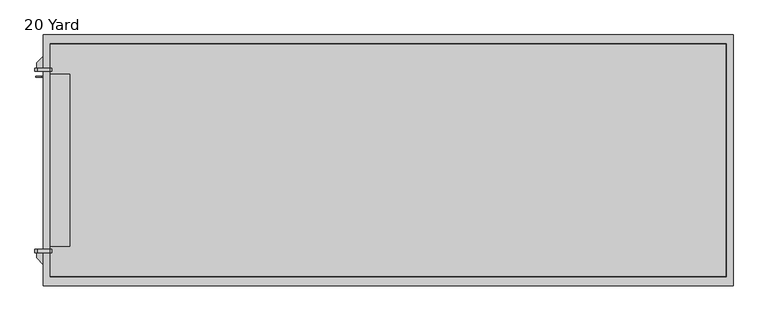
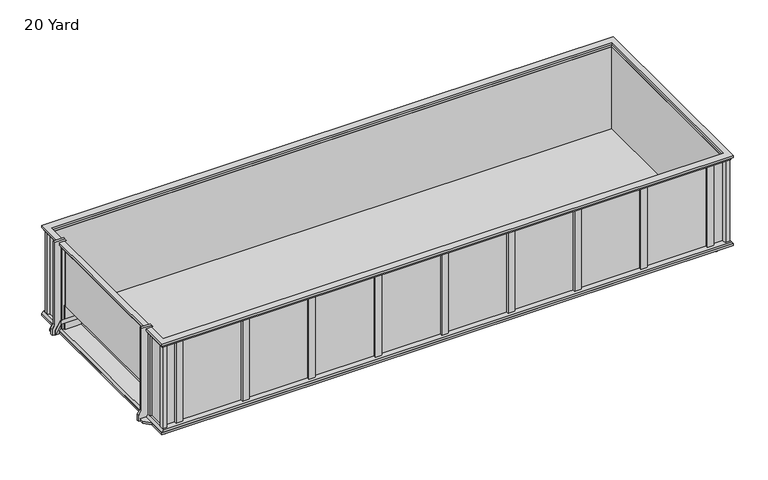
"""IFC4 building model written with IfcOpenShell, lengths in millimetres: geographic element geometry, Benne à ordures : 20 Yard."""

from ifc_helpers import new_model, si_unit, point, frame, frame_2d, origin, place, context, project, spatial, polyline, circle_curve, trimmed, segment, composite_curve, outline, extrude, source, transform, mapped, element, save


def geographic_element_20_yard_d3ad5d77(model_context):
    return source(origin(), model_context, "Body", "SweptSolid", [
        extrude(outline(polyline([(243.2435799, -3368.7841473), (293.2435799, -3368.7841473), (185.0, -3429.970536), (135.0, -3429.970536), (243.2435799, -3368.7841473)])), frame((0.0, 808.6212633, 0.0), z_axis=(0.0, 1.0, 0.0), x_axis=(0.0, 0.0, 1.0)), (0.0, 0.0, 1.0), 6.35),
        extrude(outline(polyline([(150.0, -3331.9018244), (125.0, -3354.8509122), (125.0, 3350.7490878), (150.0, 3333.781813), (150.0, -3331.9018244)])), frame((0.0, -1219.2, 0.0), z_axis=(0.0, 1.0, 0.0), x_axis=(0.0, 0.0, 1.0)), (0.0, 0.0, 1.0), 2438.4),
        extrude(outline(polyline([(-3368.7841473, 809.9712633), (-3368.7841473, 814.9712633), (-3174.2584214, 814.9712633), (-3174.2584214, 809.9712633), (-3368.7841473, 809.9712633)])), frame((0.0, 0.0, 243.2435799), z_axis=(0.0, 0.0, 1.0), x_axis=(1.0, 0.0, 0.0)), (0.0, 0.0, 1.0), 50.0),
        extrude(outline(polyline([(-3291.9018244, 836.9240327), (-3100.1860956, 836.9240327), (-3100.1860956, -836.9240327), (-3291.9018244, -836.9240327), (-3291.9018244, 836.9240327)])), frame((0.0, 0.0, 442.4264892), z_axis=(0.0, 0.0, 1.0), x_axis=(1.0, 0.0, 0.0)), (0.0, 0.0, 1.0), 10.0),
        extrude(outline(polyline([(-3291.9018244, 826.9240327), (-3291.9018244, -826.9240327), (-3306.9018244, -826.9240327), (-3306.9018244, 826.9240327), (-3291.9018244, 826.9240327)])), frame((0.0, 0.0, 442.4264892), z_axis=(0.0, 0.0, 1.0), x_axis=(1.0, 0.0, 0.0)), (0.0, 0.0, 1.0), 726.7735108),
        extrude(outline(polyline([(-3108.9024582, 836.9240327), (-3108.9024582, -836.9240327), (-3315.618187, -836.9240327), (-3315.618187, -826.9240327), (-3118.9024582, -826.9240327), (-3118.9024582, 826.9240327), (-3315.618187, 826.9240327), (-3315.618187, 836.9240327), (-3108.9024582, 836.9240327)])), frame((0.0, 0.0, 150.0), z_axis=(0.0, 0.0, 1.0), x_axis=(1.0, 0.0, 0.0)), (0.0, 0.0, 1.0), 292.4264892),
        extrude(outline(polyline([(3335.0654504, 1204.2), (3335.0654504, -1204.2), (-3341.9018244, -1204.2), (-3341.9018244, 1204.2), (3335.0654504, 1204.2)]), holes=[polyline([(3285.0654504, 1134.2), (-3291.9018244, 1134.2), (-3291.9018244, -1134.2), (3285.0654504, -1134.2), (3285.0654504, 1134.2)])]), frame((0.0, 0.0, 1169.2), z_axis=(0.0, 0.0, 1.0), x_axis=(1.0, 0.0, 0.0)), (0.0, 0.0, 1.0), 25.0),
        extrude(outline(composite_curve([segment(trimmed(circle_curve(frame_2d((50.0, 3223.3084243)), 50.0), [point((50.0, 3173.3084243))], [point((50.0, 3273.3084243))], False, "CARTESIAN"), True, "CONTINUOUS"), segment(trimmed(circle_curve(frame_2d((50.0, 3223.3084243)), 50.0), [point((50.0, 3273.3084243))], [point((50.0, 3173.3084243))], False, "CARTESIAN"), True, "CONTINUOUS")], self_intersect=False)), frame((0.0, -1076.86503, 0.0), z_axis=(0.0, 1.0, 0.0), x_axis=(0.0, 0.0, 1.0)), (0.0, 0.0, 1.0), 218.2801419),
        extrude(outline(composite_curve([segment(trimmed(circle_curve(frame_2d((50.0, 3223.3084243)), 50.0), [point((50.0, 3173.3084243))], [point((50.0, 3273.3084243))], False, "CARTESIAN"), True, "CONTINUOUS"), segment(trimmed(circle_curve(frame_2d((50.0, 3223.3084243)), 50.0), [point((50.0, 3273.3084243))], [point((50.0, 3173.3084243))], False, "CARTESIAN"), True, "CONTINUOUS")], self_intersect=False), holes=[composite_curve([segment(trimmed(circle_curve(frame_2d((50.0, 3223.3084243)), 45.0), [point((50.0, 3178.3084243))], [point((50.0, 3268.3084243))], True, "CARTESIAN"), True, "CONTINUOUS"), segment(trimmed(circle_curve(frame_2d((50.0, 3223.3084243)), 45.0), [point((50.0, 3268.3084243))], [point((50.0, 3178.3084243))], True, "CARTESIAN"), True, "CONTINUOUS")], self_intersect=False)]), frame((0.0, -1098.5848881, 0.0), z_axis=(0.0, 1.0, 0.0), x_axis=(0.0, 0.0, 1.0)), (0.0, 0.0, 1.0), 21.7198581),
        extrude(outline(composite_curve([segment(trimmed(circle_curve(frame_2d((50.0, 3223.3084243)), 50.0), [point((50.0, 3173.3084243))], [point((50.0, 3273.3084243))], False, "CARTESIAN"), True, "CONTINUOUS"), segment(trimmed(circle_curve(frame_2d((50.0, 3223.3084243)), 50.0), [point((50.0, 3273.3084243))], [point((50.0, 3173.3084243))], False, "CARTESIAN"), True, "CONTINUOUS")], self_intersect=False)), frame((0.0, 858.5848881, 0.0), z_axis=(0.0, 1.0, 0.0), x_axis=(0.0, 0.0, 1.0)), (0.0, 0.0, 1.0), 218.2801419),
        extrude(outline(composite_curve([segment(trimmed(circle_curve(frame_2d((50.0, 3223.3084243)), 50.0), [point((50.0, 3173.3084243))], [point((50.0, 3273.3084243))], False, "CARTESIAN"), True, "CONTINUOUS"), segment(trimmed(circle_curve(frame_2d((50.0, 3223.3084243)), 50.0), [point((50.0, 3273.3084243))], [point((50.0, 3173.3084243))], False, "CARTESIAN"), True, "CONTINUOUS")], self_intersect=False), holes=[composite_curve([segment(trimmed(circle_curve(frame_2d((50.0, 3223.3084243)), 45.0), [point((50.0, 3178.3084243))], [point((50.0, 3268.3084243))], True, "CARTESIAN"), True, "CONTINUOUS"), segment(trimmed(circle_curve(frame_2d((50.0, 3223.3084243)), 45.0), [point((50.0, 3268.3084243))], [point((50.0, 3178.3084243))], True, "CARTESIAN"), True, "CONTINUOUS")], self_intersect=False)]), frame((0.0, 1076.86503, 0.0), z_axis=(0.0, 1.0, 0.0), x_axis=(0.0, 0.0, 1.0)), (0.0, 0.0, 1.0), 21.7198581),
        extrude(outline(composite_curve([segment(trimmed(circle_curve(frame_2d((50.0, -3240.6571255)), 50.0), [point((50.0, -3190.6571255))], [point((50.0, -3290.6571255))], False, "CARTESIAN"), True, "CONTINUOUS"), segment(trimmed(circle_curve(frame_2d((50.0, -3240.6571255)), 50.0), [point((50.0, -3290.6571255))], [point((50.0, -3190.6571255))], False, "CARTESIAN"), True, "CONTINUOUS")], self_intersect=False)), frame((0.0, -1076.86503, 0.0), z_axis=(0.0, 1.0, 0.0), x_axis=(0.0, 0.0, 1.0)), (0.0, 0.0, 1.0), 218.2801419),
        extrude(outline(composite_curve([segment(trimmed(circle_curve(frame_2d((50.0, -3240.6571255)), 50.0), [point((50.0, -3190.6571255))], [point((50.0, -3290.6571255))], False, "CARTESIAN"), True, "CONTINUOUS"), segment(trimmed(circle_curve(frame_2d((50.0, -3240.6571255)), 50.0), [point((50.0, -3290.6571255))], [point((50.0, -3190.6571255))], False, "CARTESIAN"), True, "CONTINUOUS")], self_intersect=False), holes=[composite_curve([segment(trimmed(circle_curve(frame_2d((50.0, -3240.6571255)), 45.0), [point((50.0, -3195.6571255))], [point((50.0, -3285.6571255))], True, "CARTESIAN"), True, "CONTINUOUS"), segment(trimmed(circle_curve(frame_2d((50.0, -3240.6571255)), 45.0), [point((50.0, -3285.6571255))], [point((50.0, -3195.6571255))], True, "CARTESIAN"), True, "CONTINUOUS")], self_intersect=False)]), frame((0.0, -1098.5848881, 0.0), z_axis=(0.0, 1.0, 0.0), x_axis=(0.0, 0.0, 1.0)), (0.0, 0.0, 1.0), 21.7198581),
        extrude(outline(composite_curve([segment(trimmed(circle_curve(frame_2d((50.0, -3240.6571255)), 50.0), [point((50.0, -3190.6571255))], [point((50.0, -3290.6571255))], False, "CARTESIAN"), True, "CONTINUOUS"), segment(trimmed(circle_curve(frame_2d((50.0, -3240.6571255)), 50.0), [point((50.0, -3290.6571255))], [point((50.0, -3190.6571255))], False, "CARTESIAN"), True, "CONTINUOUS")], self_intersect=False)), frame((0.0, 858.5848881, 0.0), z_axis=(0.0, 1.0, 0.0), x_axis=(0.0, 0.0, 1.0)), (0.0, 0.0, 1.0), 218.2801419),
        extrude(outline(composite_curve([segment(trimmed(circle_curve(frame_2d((50.0, -3240.6571255)), 50.0), [point((50.0, -3190.6571255))], [point((50.0, -3290.6571255))], False, "CARTESIAN"), True, "CONTINUOUS"), segment(trimmed(circle_curve(frame_2d((50.0, -3240.6571255)), 50.0), [point((50.0, -3290.6571255))], [point((50.0, -3190.6571255))], False, "CARTESIAN"), True, "CONTINUOUS")], self_intersect=False), holes=[composite_curve([segment(trimmed(circle_curve(frame_2d((50.0, -3240.6571255)), 45.0), [point((50.0, -3195.6571255))], [point((50.0, -3285.6571255))], True, "CARTESIAN"), True, "CONTINUOUS"), segment(trimmed(circle_curve(frame_2d((50.0, -3240.6571255)), 45.0), [point((50.0, -3285.6571255))], [point((50.0, -3195.6571255))], True, "CARTESIAN"), True, "CONTINUOUS")], self_intersect=False)]), frame((0.0, 1076.86503, 0.0), z_axis=(0.0, 1.0, 0.0), x_axis=(0.0, 0.0, 1.0)), (0.0, 0.0, 1.0), 21.7198581),
        extrude(outline(polyline([(3325.7490878, 1149.2), (3325.7490878, -1149.2), (-3306.9018244, -1149.2), (-3306.9018244, -826.9240327), (-3291.9018244, -826.9240327), (-3291.9018244, -1134.2), (3285.0654504, -1134.2), (3285.0654504, 1134.2), (-3291.9018244, 1134.2), (-3291.9018244, 826.9240327), (-3306.9018244, 826.9240327), (-3306.9018244, 1149.2), (3325.7490878, 1149.2)])), frame((0.0, 0.0, 150.0), z_axis=(0.0, 0.0, 1.0), x_axis=(1.0, 0.0, 0.0)), (0.0, 0.0, 1.0), 1019.2),
        extrude(outline(polyline([(-3163.568491, 1154.2), (-3163.568491, 1179.2), (-3086.9018244, 1179.2), (-3086.9018244, 1154.2), (-3163.568491, 1154.2)])), frame((0.0, 0.0, 150.0), z_axis=(0.0, 0.0, 1.0), x_axis=(1.0, 0.0, 0.0)), (0.0, 0.0, 1.0), 1019.2),
        extrude(outline(polyline([(-2384.0281113, 1154.2), (-2384.0281113, 1179.2), (-2307.4198039, 1179.2), (-2307.4198039, 1154.2), (-2384.0281113, 1154.2)])), frame((0.0, 0.0, 150.0), z_axis=(0.0, 0.0, 1.0), x_axis=(1.0, 0.0, 0.0)), (0.0, 0.0, 1.0), 1019.2),
        extrude(outline(polyline([(-1604.4877315, 1154.2), (-1604.4877315, 1179.2), (-1527.9377834, 1179.2), (-1527.9377834, 1154.2), (-1604.4877315, 1154.2)])), frame((0.0, 0.0, 150.0), z_axis=(0.0, 0.0, 1.0), x_axis=(1.0, 0.0, 0.0)), (0.0, 0.0, 1.0), 1019.2),
        extrude(outline(polyline([(-824.9473518, 1154.2), (-824.9473518, 1179.2), (-748.455763, 1179.2), (-748.455763, 1154.2), (-824.9473518, 1154.2)])), frame((0.0, 0.0, 150.0), z_axis=(0.0, 0.0, 1.0), x_axis=(1.0, 0.0, 0.0)), (0.0, 0.0, 1.0), 1019.2),
        extrude(outline(polyline([(-45.406972, 1154.2), (-45.406972, 1179.2), (31.0604393, 1179.2), (31.0604393, 1154.2), (-45.406972, 1154.2)])), frame((0.0, 0.0, 150.0), z_axis=(0.0, 0.0, 1.0), x_axis=(1.0, 0.0, 0.0)), (0.0, 0.0, 1.0), 1019.2),
        extrude(outline(polyline([(734.1334077, 1154.2), (734.1334077, 1179.2), (810.5424598, 1179.2), (810.5424598, 1154.2), (734.1334077, 1154.2)])), frame((0.0, 0.0, 150.0), z_axis=(0.0, 0.0, 1.0), x_axis=(1.0, 0.0, 0.0)), (0.0, 0.0, 1.0), 1019.2),
        extrude(outline(polyline([(-3086.9018244, -1179.2), (-3163.568491, -1179.2), (-3163.568491, -1154.2), (-3086.9018244, -1154.2), (-3086.9018244, -1179.2)])), frame((0.0, 0.0, 150.0), z_axis=(0.0, 0.0, 1.0), x_axis=(1.0, 0.0, 0.0)), (0.0, 0.0, 1.0), 1019.2),
        extrude(outline(polyline([(-2384.0281113, -1154.2), (-2307.4198039, -1154.2), (-2307.4198039, -1179.2), (-2384.0281113, -1179.2), (-2384.0281113, -1154.2)])), frame((0.0, 0.0, 150.0), z_axis=(0.0, 0.0, 1.0), x_axis=(1.0, 0.0, 0.0)), (0.0, 0.0, 1.0), 1019.2),
        extrude(outline(polyline([(-1604.4877315, -1154.2), (-1527.9377834, -1154.2), (-1527.9377834, -1179.2), (-1604.4877315, -1179.2), (-1604.4877315, -1154.2)])), frame((0.0, 0.0, 150.0), z_axis=(0.0, 0.0, 1.0), x_axis=(1.0, 0.0, 0.0)), (0.0, 0.0, 1.0), 1019.2),
        extrude(outline(polyline([(-824.9473518, -1154.2), (-748.455763, -1154.2), (-748.455763, -1179.2), (-824.9473518, -1179.2), (-824.9473518, -1154.2)])), frame((0.0, 0.0, 150.0), z_axis=(0.0, 0.0, 1.0), x_axis=(1.0, 0.0, 0.0)), (0.0, 0.0, 1.0), 1019.2),
        extrude(outline(polyline([(-45.406972, -1154.2), (31.0262575, -1154.2), (31.0262575, -1179.2), (-45.406972, -1179.2), (-45.406972, -1154.2)])), frame((0.0, 0.0, 150.0), z_axis=(0.0, 0.0, 1.0), x_axis=(1.0, 0.0, 0.0)), (0.0, 0.0, 1.0), 1019.2),
        extrude(outline(polyline([(734.1334077, -1154.2), (810.5082779, -1154.2), (810.5082779, -1179.2), (734.1334077, -1179.2), (734.1334077, -1154.2)])), frame((0.0, 0.0, 150.0), z_axis=(0.0, 0.0, 1.0), x_axis=(1.0, 0.0, 0.0)), (0.0, 0.0, 1.0), 1019.2),
        extrude(outline(polyline([(1513.6737875, -1154.2), (1589.9902984, -1154.2), (1589.9902984, -1179.2), (1513.6737875, -1179.2), (1513.6737875, -1154.2)])), frame((0.0, 0.0, 150.0), z_axis=(0.0, 0.0, 1.0), x_axis=(1.0, 0.0, 0.0)), (0.0, 0.0, 1.0), 1019.2),
        extrude(outline(polyline([(2293.2141672, -1154.2), (2369.4723189, -1154.2), (2369.4723189, -1179.2), (2293.2141672, -1179.2), (2293.2141672, -1154.2)])), frame((0.0, 0.0, 150.0), z_axis=(0.0, 0.0, 1.0), x_axis=(1.0, 0.0, 0.0)), (0.0, 0.0, 1.0), 1019.2),
        extrude(outline(polyline([(3072.754547, -1154.2), (3148.9543393, -1154.2), (3148.9543393, -1179.2), (3072.754547, -1179.2), (3072.754547, -1154.2)])), frame((0.0, 0.0, 150.0), z_axis=(0.0, 0.0, 1.0), x_axis=(1.0, 0.0, 0.0)), (0.0, 0.0, 1.0), 1019.2),
        extrude(outline(polyline([(3279.0824212, 1194.2), (3325.7490878, 1194.2), (3325.7490878, 1147.5333333), (3285.7490878, 1134.2), (3285.7490878, 1154.2), (3265.7490878, 1154.2), (3279.0824212, 1194.2)])), frame((0.0, 0.0, 150.0), z_axis=(0.0, 0.0, 1.0), x_axis=(1.0, 0.0, 0.0)), (0.0, 0.0, 1.0), 1019.2),
        extrude(outline(polyline([(3279.0824212, -1194.2), (3265.7490878, -1154.2), (3285.7490878, -1154.2), (3285.7490878, -1134.2), (3325.7490878, -1147.5333333), (3325.7490878, -1194.2), (3279.0824212, -1194.2)])), frame((0.0, 0.0, 150.0), z_axis=(0.0, 0.0, 1.0), x_axis=(1.0, 0.0, 0.0)), (0.0, 0.0, 1.0), 1019.2),
        extrude(outline(polyline([(-3285.2351577, 1194.2), (-3271.9018244, 1154.2), (-3291.9018244, 1154.2), (-3291.9018244, 1134.2), (-3331.9018244, 1147.5333333), (-3331.9018244, 1194.2), (-3285.2351577, 1194.2)])), frame((0.0, 0.0, 150.0), z_axis=(0.0, 0.0, 1.0), x_axis=(1.0, 0.0, 0.0)), (0.0, 0.0, 1.0), 1019.2),
        extrude(outline(polyline([(-3285.2351577, -1194.2), (-3331.9018244, -1194.2), (-3331.9018244, -1147.5333333), (-3291.9018244, -1134.2), (-3291.9018244, -1154.2), (-3271.9018244, -1154.2), (-3285.2351577, -1194.2)])), frame((0.0, 0.0, 150.0), z_axis=(0.0, 0.0, 1.0), x_axis=(1.0, 0.0, 0.0)), (0.0, 0.0, 1.0), 1019.2),
        extrude(outline(polyline([(1513.6737875, 1179.2), (1590.0244803, 1179.2), (1590.0244803, 1154.2), (1513.6737875, 1154.2), (1513.6737875, 1179.2)])), frame((0.0, 0.0, 150.0), z_axis=(0.0, 0.0, 1.0), x_axis=(1.0, 0.0, 0.0)), (0.0, 0.0, 1.0), 1019.2),
        extrude(outline(polyline([(2293.2141672, 1179.2), (2369.5065007, 1179.2), (2369.5065007, 1154.2), (2293.2141672, 1154.2), (2293.2141672, 1179.2)])), frame((0.0, 0.0, 150.0), z_axis=(0.0, 0.0, 1.0), x_axis=(1.0, 0.0, 0.0)), (0.0, 0.0, 1.0), 1019.2),
        extrude(outline(polyline([(3148.9885212, 1179.2), (3148.9885212, 1154.2), (3072.754547, 1154.2), (3072.754547, 1179.2), (3148.9885212, 1179.2)])), frame((0.0, 0.0, 150.0), z_axis=(0.0, 0.0, 1.0), x_axis=(1.0, 0.0, 0.0)), (0.0, 0.0, 1.0), 1019.2),
        extrude(outline(polyline([(-3306.9018244, 946.5240327), (-3306.9018244, 836.5240327), (-3331.9018244, 844.857366), (-3331.9018244, 938.1906994), (-3306.9018244, 946.5240327)])), frame((0.0, 0.0, 150.0), z_axis=(0.0, 0.0, 1.0), x_axis=(1.0, 0.0, 0.0)), (0.0, 0.0, 1.0), 1019.2),
        extrude(outline(polyline([(3300.0654504, 936.9240327), (3325.7490878, 928.5906994), (3325.7490878, 835.257366), (3300.0654504, 826.9240327), (3300.0654504, 936.9240327)])), frame((0.0, 0.0, 150.0), z_axis=(0.0, 0.0, 1.0), x_axis=(1.0, 0.0, 0.0)), (0.0, 0.0, 1.0), 1019.2),
        extrude(outline(polyline([(-3306.9018244, -936.9240327), (-3331.9018244, -928.5906994), (-3331.9018244, -835.257366), (-3306.9018244, -826.9240327), (-3306.9018244, -936.9240327)])), frame((0.0, 0.0, 150.0), z_axis=(0.0, 0.0, 1.0), x_axis=(1.0, 0.0, 0.0)), (0.0, 0.0, 1.0), 1019.2),
        extrude(outline(polyline([(3300.0654504, -946.5240327), (3300.0654504, -836.5240327), (3325.7490878, -844.857366), (3325.7490878, -938.1906994), (3300.0654504, -946.5240327)])), frame((0.0, 0.0, 150.0), z_axis=(0.0, 0.0, 1.0), x_axis=(1.0, 0.0, 0.0)), (0.0, 0.0, 1.0), 1019.2),
        extrude(outline(polyline([(3352.1163626, 1219.2), (3352.1163626, -1219.2), (-3354.8509122, -1219.2), (-3354.8509122, -1013.508304), (-3422.0024582, -947.7240327), (-3422.0024582, -896.9240327), (-3354.8509122, -896.9240327), (-3354.8509122, 896.9240327), (-3421.3188208, 896.9240327), (-3421.3188208, 947.6425526), (-3354.8509122, 1013.4268239), (-3354.8509122, 1219.2), (3352.1163626, 1219.2)])), frame((0.0, 0.0, 100.0), z_axis=(0.0, 0.0, 1.0), x_axis=(1.0, 0.0, 0.0)), (0.0, 0.0, 1.0), 25.0),
        extrude(outline(polyline([(1240.8506351, -3288.0345496), (1240.8506351, -3408.0345496), (216.6506351, -3408.0345496), (173.3663638, -3437.6860956), (96.25, -3437.6860956), (87.1163638, -3381.0605492), (87.1163638, -3098.8188208), (100.0, -3098.8188208), (100.0, -3355.5345496), (125.0, -3355.5345496), (150.0, -3330.5345496), (1169.2, -3330.5345496), (1169.2, -3340.5345496), (1194.2, -3340.5345496), (1194.2, -3355.5345496), (1219.2, -3355.5345496), (1219.2, -3275.5345496), (1240.8506351, -3288.0345496)])), frame((0.0, 866.9240327, 0.0), z_axis=(0.0, 1.0, 0.0), x_axis=(0.0, 0.0, 1.0)), (0.0, 0.0, 1.0), 30.0),
        extrude(outline(polyline([(1240.8506351, -3288.0345496), (1240.8506351, -3408.0345496), (216.6506351, -3408.0345496), (173.3663638, -3437.6860956), (96.25, -3437.6860956), (87.1163638, -3381.0605492), (87.1163638, -3098.8188208), (100.0, -3098.8188208), (100.0, -3355.5345496), (125.0, -3355.5345496), (150.0, -3330.5345496), (1169.2, -3330.5345496), (1169.2, -3340.5345496), (1194.2, -3340.5345496), (1194.2, -3355.5345496), (1219.2, -3355.5345496), (1219.2, -3275.5345496), (1240.8506351, -3288.0345496)])), frame((0.0, -896.9240327, 0.0), z_axis=(0.0, 1.0, 0.0), x_axis=(0.0, 0.0, 1.0)), (0.0, 0.0, 1.0), 30.0),
        extrude(outline(polyline([(3352.1163626, 1219.2), (3352.1163626, -1219.2), (-3354.8509122, -1219.2), (-3354.8509122, 1219.2), (3352.1163626, 1219.2)]), holes=[polyline([(3286.4327252, 1134.2), (-3289.8509122, 1134.2), (-3289.8509122, -1134.2), (3286.4327252, -1134.2), (3286.4327252, 1134.2)])]), frame((0.0, 0.0, 1194.2), z_axis=(0.0, 0.0, 1.0), x_axis=(1.0, 0.0, 0.0)), (0.0, 0.0, 1.0), 25.0),
    ])


if __name__ == "__main__":
    model = new_model("IFC4")
    model_context = context("Model", 3, world=origin())
    ifc_project = project(units=[si_unit("LENGTHUNIT", "METRE", prefix="MILLI")], contexts=[model_context])
    site = spatial("IfcSite", under=ifc_project)
    building = spatial("IfcBuilding", under=site)
    placement = place(None, origin())
    geographic_element_20_yard_shape = geographic_element_20_yard_d3ad5d77(model_context)
    element("IfcGeographicElement", 1, ObjectType="Benne à ordures : 20 Yard", at=placement, inside=building, context=model_context, shape_type="MappedRepresentation", body=[
        mapped(geographic_element_20_yard_shape, transform((0.0, 0.0, 0.0), x_axis=(1.0, 0.0, 0.0), y_axis=(0.0, 1.0, 0.0), z_axis=(0.0, 0.0, 1.0))),
    ])
    save(model, "model.ifc")
